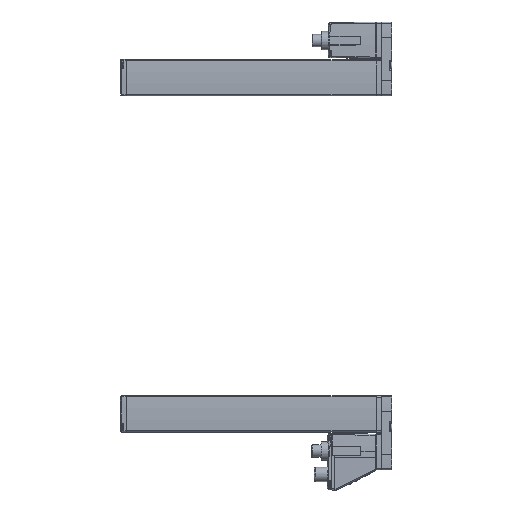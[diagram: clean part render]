
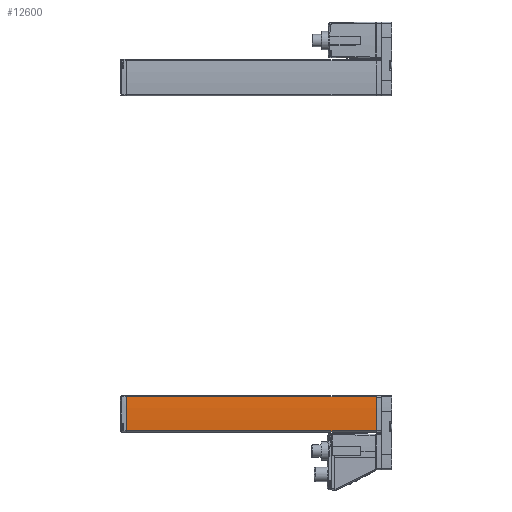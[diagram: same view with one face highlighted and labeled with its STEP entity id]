
A CAD part, left-side view. The second image highlights one B-rep face of the part: STEP entity #12600.
In plain terms, the highlighted cylindrical face has radius 250 mm (diameter 500 mm), a partial arc.
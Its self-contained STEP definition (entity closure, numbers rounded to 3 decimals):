
#11678=CYLINDRICAL_SURFACE('',#79139,250.);
#12600=ADVANCED_FACE('',(#18549),#11678,.T.);
#18549=FACE_OUTER_BOUND('',#22189,.T.);
#22189=EDGE_LOOP('',(#29285,#29286,#29287,#29288));
#26616=CIRCLE('',#79049,250.);
#26663=CIRCLE('',#79138,250.);
#29285=ORIENTED_EDGE('',*,*,#56790,.T.);
#29286=ORIENTED_EDGE('',*,*,#56914,.F.);
#29287=ORIENTED_EDGE('',*,*,#56915,.T.);
#29288=ORIENTED_EDGE('',*,*,#56912,.F.);
#49990=VERTEX_POINT('',#104094);
#49991=VERTEX_POINT('',#104096);
#50072=VERTEX_POINT('',#104340);
#50073=VERTEX_POINT('',#104344);
#56790=EDGE_CURVE('',#49991,#49990,#26616,.T.);
#56912=EDGE_CURVE('',#49991,#50072,#67318,.T.);
#56914=EDGE_CURVE('',#50073,#49990,#67319,.T.);
#56915=EDGE_CURVE('',#50073,#50072,#26663,.T.);
#67318=LINE('',#104339,#73178);
#67319=LINE('',#104343,#73179);
#73178=VECTOR('',#85629,1.);
#73179=VECTOR('',#85634,1.);
#79049=AXIS2_PLACEMENT_3D('',#104095,#85379,#85380);
#79138=AXIS2_PLACEMENT_3D('',#104345,#85635,#85636);
#79139=AXIS2_PLACEMENT_3D('',#104346,#85637,#85638);
#85379=DIRECTION('',(0.,0.,1.));
#85380=DIRECTION('',(-0.998,0.067,0.));
#85629=DIRECTION('',(0.,0.,1.));
#85634=DIRECTION('',(0.,0.,-1.));
#85635=DIRECTION('',(0.,0.,-1.));
#85636=DIRECTION('',(-0.998,0.067,0.));
#85637=DIRECTION('',(0.,0.,-1.));
#85638=DIRECTION('',(0.998,-0.067,0.));
#104094=CARTESIAN_POINT('',(13.731,16.86,-242.));
#104095=CARTESIAN_POINT('',(-235.7,0.,-242.));
#104096=CARTESIAN_POINT('',(13.793,-15.907,-242.));
#104339=CARTESIAN_POINT('',(13.793,-15.907,-452.));
#104340=CARTESIAN_POINT('',(13.793,-15.907,0.));
#104343=CARTESIAN_POINT('',(13.731,16.86,0.));
#104344=CARTESIAN_POINT('',(13.731,16.86,0.));
#104345=CARTESIAN_POINT('',(-235.7,0.,0.));
#104346=CARTESIAN_POINT('',(-235.7,0.,0.));
